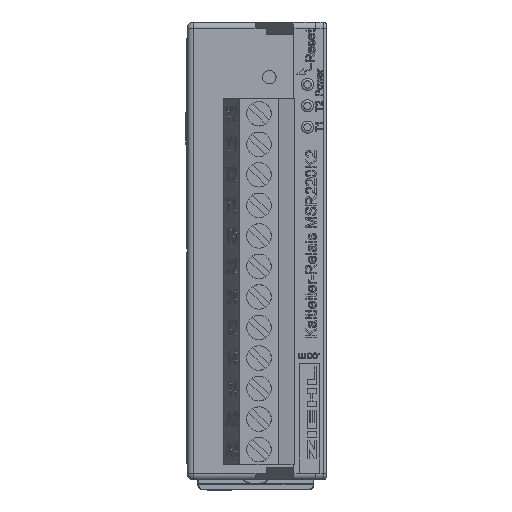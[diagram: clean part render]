
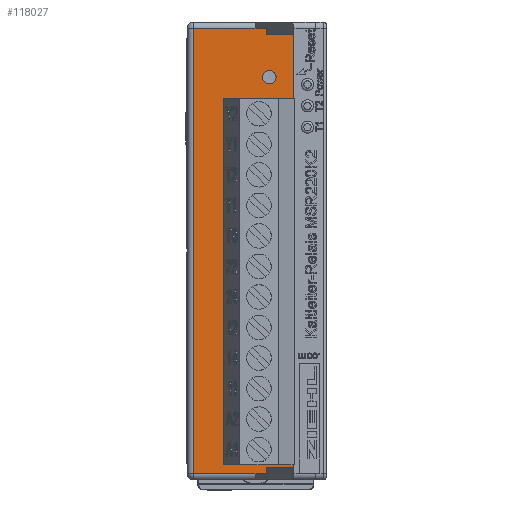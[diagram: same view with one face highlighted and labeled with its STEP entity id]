
A CAD part, left-side view. The second image highlights one B-rep face of the part: STEP entity #118027.
In plain terms, the highlighted planar face has unit normal (-1, 0, 0) as drawn and (1, 0, 0) by its records, which use the part's own axes.
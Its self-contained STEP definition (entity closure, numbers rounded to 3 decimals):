
#315 = EDGE_CURVE ( 'NONE', #99207, #123262, #86540, .T. ) ;
#2856 = LINE ( 'NONE', #14277, #81616 ) ;
#5709 = CARTESIAN_POINT ( 'NONE',  ( 30., -10.082, -36.5 ) ) ;
#6191 = CARTESIAN_POINT ( 'NONE',  ( 30., -16.3, -35.5 ) ) ;
#6690 = DIRECTION ( 'NONE',  ( 0., 0., 1. ) ) ;
#9356 = DIRECTION ( 'NONE',  ( -1., 0., 0. ) ) ;
#11069 = CARTESIAN_POINT ( 'NONE',  ( 30., 0.2, 36.5 ) ) ;
#14277 = CARTESIAN_POINT ( 'NONE',  ( 30., -14.3, 35.5 ) ) ;
#15188 = CARTESIAN_POINT ( 'NONE',  ( 30., -14.3, 36.5 ) ) ;
#15977 = CARTESIAN_POINT ( 'NONE',  ( 30., -16.3, 35.5 ) ) ;
#16009 = CARTESIAN_POINT ( 'NONE',  ( 30., -14.3, -37.5 ) ) ;
#16438 = ORIENTED_EDGE ( 'NONE', *, *, #126363, .T. ) ;
#17684 = EDGE_CURVE ( 'NONE', #123262, #27741, #2856, .T. ) ;
#18152 = CARTESIAN_POINT ( 'NONE',  ( 30., -16.3, 35.5 ) ) ;
#22592 = VERTEX_POINT ( 'NONE', #42711 ) ;
#22660 = LINE ( 'NONE', #75719, #72125 ) ;
#25986 = VERTEX_POINT ( 'NONE', #41632 ) ;
#26089 = ORIENTED_EDGE ( 'NONE', *, *, #126589, .F. ) ;
#27487 = ORIENTED_EDGE ( 'NONE', *, *, #315, .F. ) ;
#27741 = VERTEX_POINT ( 'NONE', #15188 ) ;
#28358 = ORIENTED_EDGE ( 'NONE', *, *, #17684, .F. ) ;
#30018 = ORIENTED_EDGE ( 'NONE', *, *, #81044, .T. ) ;
#31434 = VERTEX_POINT ( 'NONE', #6191 ) ;
#31455 = CARTESIAN_POINT ( 'NONE',  ( 30., 0.2, 37.5 ) ) ;
#32887 = VECTOR ( 'NONE', #103836, 1000. ) ;
#33363 = AXIS2_PLACEMENT_3D ( 'NONE', #107755, #9356, #78387 ) ;
#33834 = ORIENTED_EDGE ( 'NONE', *, *, #117106, .F. ) ;
#34084 = VECTOR ( 'NONE', #116982, 1000. ) ;
#34606 = DIRECTION ( 'NONE',  ( 0., 1., 0. ) ) ;
#38095 = CARTESIAN_POINT ( 'NONE',  ( 30., -16.3, -36.5 ) ) ;
#40537 = EDGE_LOOP ( 'NONE', ( #16438, #30018, #33834, #28358, #27487, #105627, #26089, #64624, #125880, #126031 ) ) ;
#41632 = CARTESIAN_POINT ( 'NONE',  ( 30., -14.3, -36.5 ) ) ;
#42711 = CARTESIAN_POINT ( 'NONE',  ( 30., 0.2, -36.5 ) ) ;
#45160 = CARTESIAN_POINT ( 'NONE',  ( 30., -16.3, -35.5 ) ) ;
#46853 = VECTOR ( 'NONE', #100479, 1000. ) ;
#46896 = DIRECTION ( 'NONE',  ( 0., 1., 0. ) ) ;
#57242 = VECTOR ( 'NONE', #34606, 1000. ) ;
#60438 = VERTEX_POINT ( 'NONE', #5709 ) ;
#61090 = VECTOR ( 'NONE', #107171, 1000. ) ;
#62241 = LINE ( 'NONE', #45160, #32887 ) ;
#63513 = CARTESIAN_POINT ( 'NONE',  ( 30., -16.3, 36.5 ) ) ;
#64624 = ORIENTED_EDGE ( 'NONE', *, *, #109806, .F. ) ;
#65613 = DIRECTION ( 'NONE',  ( 0., 0., 1. ) ) ;
#68457 = PLANE ( 'NONE',  #33363 ) ;
#68690 = LINE ( 'NONE', #125916, #118132 ) ;
#70025 = LINE ( 'NONE', #31455, #46853 ) ;
#71228 = CARTESIAN_POINT ( 'NONE',  ( 30., -14.3, -35.5 ) ) ;
#72125 = VECTOR ( 'NONE', #6690, 1000. ) ;
#75719 = CARTESIAN_POINT ( 'NONE',  ( 30., -16.3, 36.5 ) ) ;
#77118 = VECTOR ( 'NONE', #65613, 1000. ) ;
#78387 = DIRECTION ( 'NONE',  ( 0., 0., 1. ) ) ;
#79640 = VERTEX_POINT ( 'NONE', #11069 ) ;
#80110 = FACE_OUTER_BOUND ( 'NONE', #40537, .T. ) ;
#81044 = EDGE_CURVE ( 'NONE', #79640, #111752, #101621, .T. ) ;
#81616 = VECTOR ( 'NONE', #83297, 1000. ) ;
#82721 = EDGE_CURVE ( 'NONE', #60438, #22592, #68690, .T. ) ;
#83246 = EDGE_CURVE ( 'NONE', #25986, #60438, #84180, .T. ) ;
#83297 = DIRECTION ( 'NONE',  ( 0., 0., 1. ) ) ;
#84180 = LINE ( 'NONE', #38095, #61090 ) ;
#84525 = CARTESIAN_POINT ( 'NONE',  ( 30., 1.2, 36.5 ) ) ;
#86540 = LINE ( 'NONE', #18152, #34084 ) ;
#89298 = VERTEX_POINT ( 'NONE', #71228 ) ;
#92845 = CARTESIAN_POINT ( 'NONE',  ( 30., -14.3, 35.5 ) ) ;
#94481 = DIRECTION ( 'NONE',  ( 0., -1., 0. ) ) ;
#95971 = EDGE_CURVE ( 'NONE', #31434, #99207, #22660, .T. ) ;
#98569 = VECTOR ( 'NONE', #94481, 1000. ) ;
#99207 = VERTEX_POINT ( 'NONE', #15977 ) ;
#100479 = DIRECTION ( 'NONE',  ( 0., 0., 1. ) ) ;
#101621 = LINE ( 'NONE', #84525, #98569 ) ;
#102830 = CARTESIAN_POINT ( 'NONE',  ( 30., -10.082, 36.5 ) ) ;
#103836 = DIRECTION ( 'NONE',  ( 0., -1., 0. ) ) ;
#105627 = ORIENTED_EDGE ( 'NONE', *, *, #95971, .F. ) ;
#106478 = LINE ( 'NONE', #16009, #77118 ) ;
#107171 = DIRECTION ( 'NONE',  ( 0., 1., 0. ) ) ;
#107755 = CARTESIAN_POINT ( 'NONE',  ( 30., 1.2, 37.5 ) ) ;
#109711 = LINE ( 'NONE', #63513, #57242 ) ;
#109806 = EDGE_CURVE ( 'NONE', #25986, #89298, #106478, .T. ) ;
#111752 = VERTEX_POINT ( 'NONE', #102830 ) ;
#116982 = DIRECTION ( 'NONE',  ( 0., 1., 0. ) ) ;
#117106 = EDGE_CURVE ( 'NONE', #27741, #111752, #109711, .T. ) ;
#118027 = ADVANCED_FACE ( 'NONE', ( #80110 ), #68457, .F. ) ;
#118132 = VECTOR ( 'NONE', #46896, 1000. ) ;
#123262 = VERTEX_POINT ( 'NONE', #92845 ) ;
#125880 = ORIENTED_EDGE ( 'NONE', *, *, #83246, .T. ) ;
#125916 = CARTESIAN_POINT ( 'NONE',  ( 30., 1.2, -36.5 ) ) ;
#126031 = ORIENTED_EDGE ( 'NONE', *, *, #82721, .T. ) ;
#126363 = EDGE_CURVE ( 'NONE', #22592, #79640, #70025, .T. ) ;
#126589 = EDGE_CURVE ( 'NONE', #89298, #31434, #62241, .T. ) ;
